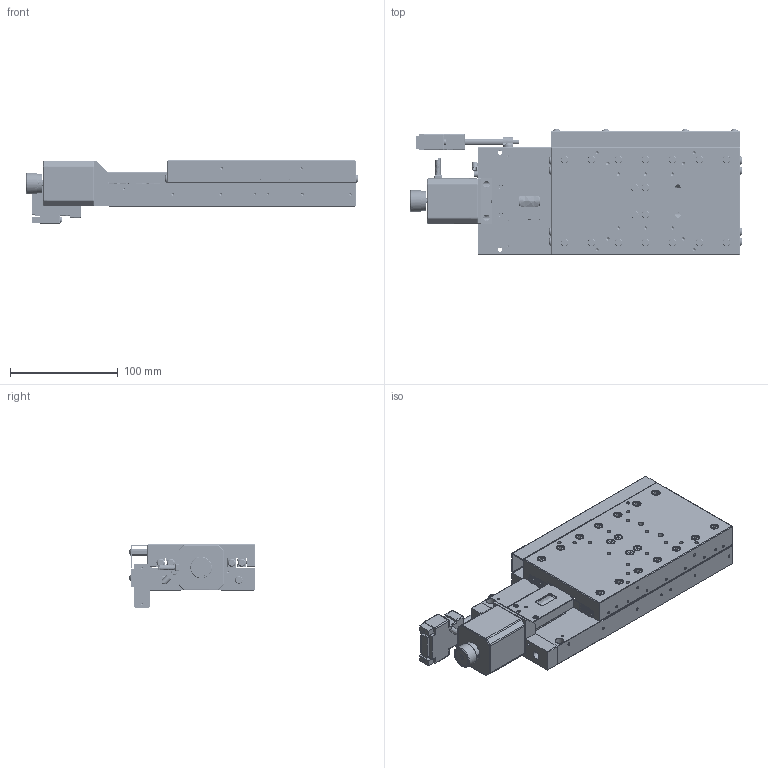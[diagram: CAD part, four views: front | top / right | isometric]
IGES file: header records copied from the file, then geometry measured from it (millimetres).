
Global section: file name: TAMM100-100CR_IGES; native system: Autodesk Inventor 2015; preprocessor: unknown; author: kawashima; date: 20151222.140054; units: millimetre
Bounding box: 308 x 116.96 x 58.65 mm (x, y, z)
Volume: 872622.7 mm3; surface area: 234874.8 mm2
Topology: 4 solids, 102 shells, 2534 faces, 6476 edges, 4295 vertices
Faces by surface type: bspline 2534
